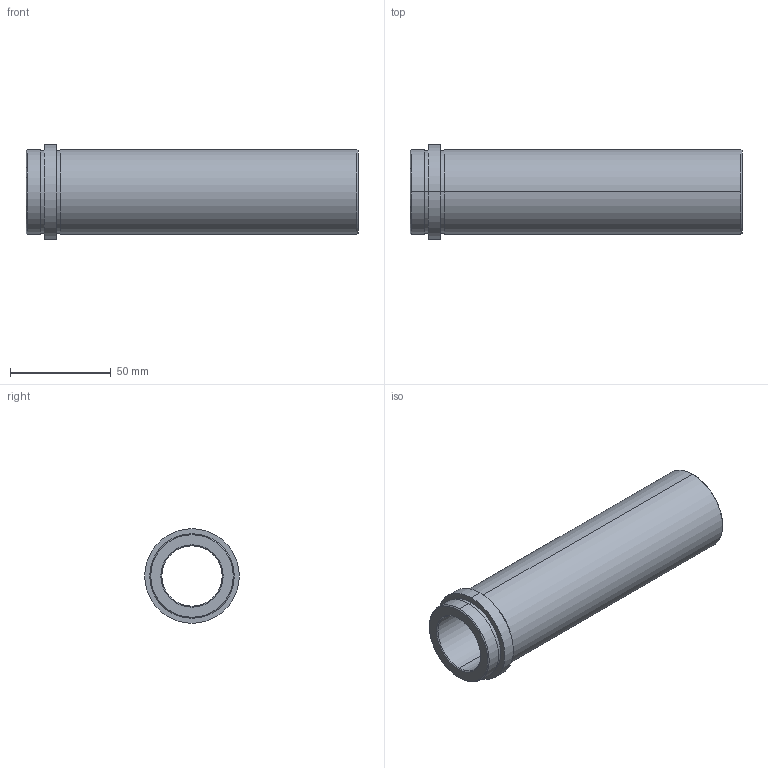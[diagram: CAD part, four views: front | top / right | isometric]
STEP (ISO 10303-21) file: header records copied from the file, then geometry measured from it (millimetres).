
FILE_DESCRIPTION( ( 'STEP AP203' ), '1' );
FILE_NAME( 'C:/Projects/D21 - 30x156.step', '2002-12-31T22:55:57', ( ' ' ), ( ' ' ), 'XStep 1.0', ' ', ' ' );
FILE_SCHEMA( ( 'CONFIG_CONTROL_DESIGN' ) );
Length unit declared in the file: metre
Products named in the file (1): 1
Bounding box: 165 x 47 x 47 mm (x, y, z)
Volume: 113746.1 mm3; surface area: 39588.2 mm2
Topology: 1 solids, 1 shells, 26 faces, 52 edges, 32 vertices
Faces by surface type: revolution 20, bspline 6
Entity records: 773 total; most frequent: CARTESIAN_POINT 169, DIRECTION 106, ORIENTED_EDGE 104, EDGE_CURVE 52, AXIS2_PLACEMENT_3D 33, EDGE_LOOP 32, VERTEX_POINT 32, CIRCLE 32
